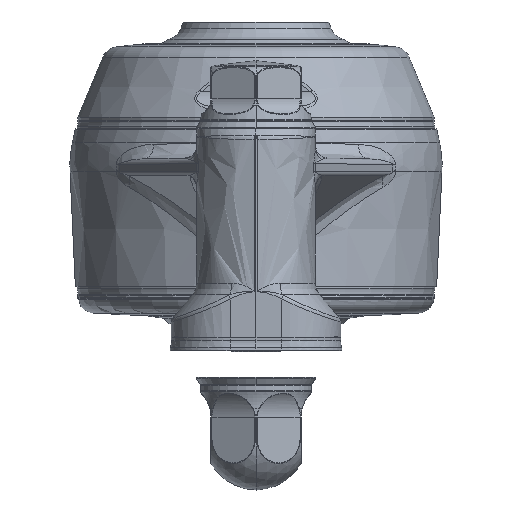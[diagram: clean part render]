
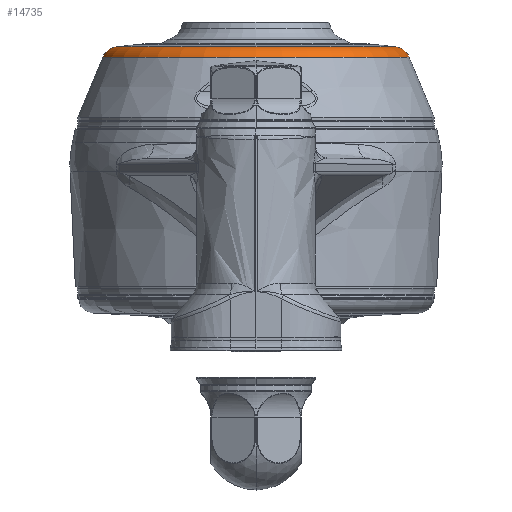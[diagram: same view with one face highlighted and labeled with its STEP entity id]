
A CAD part, front view. The second image highlights one B-rep face of the part: STEP entity #14735.
In plain terms, the highlighted toroidal (fillet/blend) face has major radius 24.309 mm and minor radius 3 mm.
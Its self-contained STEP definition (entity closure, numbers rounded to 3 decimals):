
#366 = FACE_OUTER_BOUND ( 'NONE', #50950, .T. ) ;
#6396 = AXIS2_PLACEMENT_3D ( 'NONE', #8086, #35980, #47778 ) ;
#8086 = CARTESIAN_POINT ( 'NONE',  ( 24.309, 0., 25.465 ) ) ;
#8238 = DIRECTION ( 'NONE',  ( 0., 0., -1. ) ) ;
#9587 = DIRECTION ( 'NONE',  ( 0., -1., 0. ) ) ;
#9992 = VERTEX_POINT ( 'NONE', #26776 ) ;
#11142 = ORIENTED_EDGE ( 'NONE', *, *, #25026, .F. ) ;
#12506 = AXIS2_PLACEMENT_3D ( 'NONE', #44267, #8238, #31656 ) ;
#14227 = AXIS2_PLACEMENT_3D ( 'NONE', #30534, #46292, #42876 ) ;
#14735 = ADVANCED_FACE ( 'NONE', ( #366 ), #51113, .T. ) ;
#18648 = VERTEX_POINT ( 'NONE', #35488 ) ;
#18700 = EDGE_CURVE ( 'NONE', #42023, #18648, #29069, .T. ) ;
#25026 = EDGE_CURVE ( 'NONE', #34212, #42023, #33529, .T. ) ;
#25496 = DIRECTION ( 'NONE',  ( 1., 0., 0. ) ) ;
#26322 = EDGE_CURVE ( 'NONE', #34212, #9992, #42805, .T. ) ;
#26776 = CARTESIAN_POINT ( 'NONE',  ( -27.078, 0., 26.621 ) ) ;
#28874 = CARTESIAN_POINT ( 'NONE',  ( 24.679, 0., 28.442 ) ) ;
#29069 = CIRCLE ( 'NONE', #6396, 3. ) ;
#29829 = CARTESIAN_POINT ( 'NONE',  ( -24.309, 0., 25.465 ) ) ;
#30531 = ORIENTED_EDGE ( 'NONE', *, *, #26322, .T. ) ;
#30534 = CARTESIAN_POINT ( 'NONE',  ( 0., 0., 28.442 ) ) ;
#30731 = DIRECTION ( 'NONE',  ( 0., 0., -1. ) ) ;
#31656 = DIRECTION ( 'NONE',  ( -1., 0., 0. ) ) ;
#31921 = AXIS2_PLACEMENT_3D ( 'NONE', #29829, #9587, #34579 ) ;
#33529 = CIRCLE ( 'NONE', #14227, 24.679 ) ;
#34212 = VERTEX_POINT ( 'NONE', #39793 ) ;
#34579 = DIRECTION ( 'NONE',  ( 1., 0., 0. ) ) ;
#35488 = CARTESIAN_POINT ( 'NONE',  ( 27.078, 0., 26.621 ) ) ;
#35980 = DIRECTION ( 'NONE',  ( 0., 1., 0. ) ) ;
#37402 = ORIENTED_EDGE ( 'NONE', *, *, #39949, .F. ) ;
#38659 = AXIS2_PLACEMENT_3D ( 'NONE', #42562, #30731, #25496 ) ;
#39793 = CARTESIAN_POINT ( 'NONE',  ( -24.679, 0., 28.442 ) ) ;
#39949 = EDGE_CURVE ( 'NONE', #18648, #9992, #42011, .T. ) ;
#42011 = CIRCLE ( 'NONE', #38659, 27.078 ) ;
#42023 = VERTEX_POINT ( 'NONE', #28874 ) ;
#42562 = CARTESIAN_POINT ( 'NONE',  ( 0., 0., 26.621 ) ) ;
#42805 = CIRCLE ( 'NONE', #31921, 3. ) ;
#42876 = DIRECTION ( 'NONE',  ( -1., 0., 0. ) ) ;
#44267 = CARTESIAN_POINT ( 'NONE',  ( 0., 0., 25.465 ) ) ;
#46292 = DIRECTION ( 'NONE',  ( 0., 0., 1. ) ) ;
#47778 = DIRECTION ( 'NONE',  ( -1., 0., 0. ) ) ;
#48840 = ORIENTED_EDGE ( 'NONE', *, *, #18700, .F. ) ;
#50950 = EDGE_LOOP ( 'NONE', ( #48840, #11142, #30531, #37402 ) ) ;
#51113 = TOROIDAL_SURFACE ( 'NONE', #12506, 24.309, 3. ) ;
